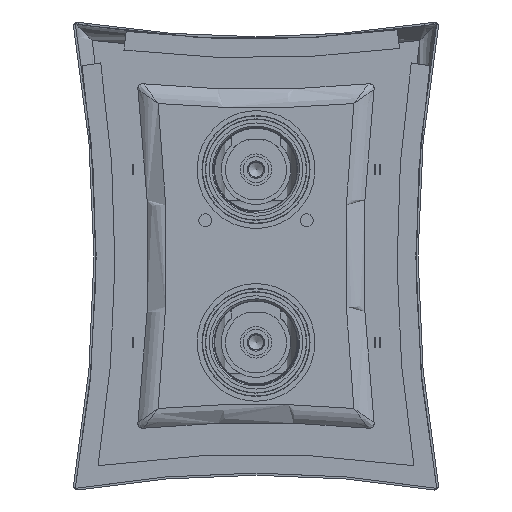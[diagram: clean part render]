
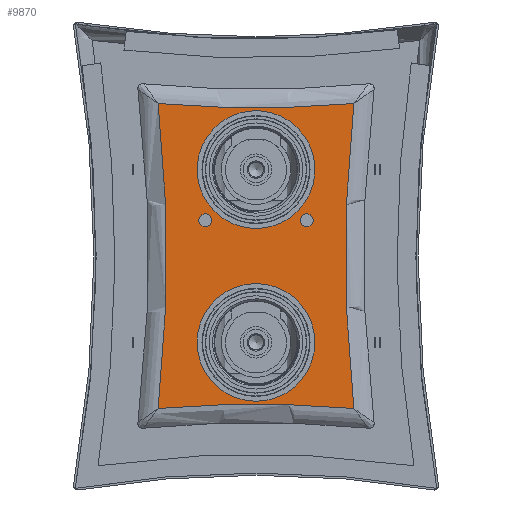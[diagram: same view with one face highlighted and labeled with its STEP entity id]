
A CAD part, left-side view. The second image highlights one B-rep face of the part: STEP entity #9870.
In plain terms, the highlighted planar face has unit normal (-1, 0, 0) as drawn and (0, 0, -1) by its records, which use the part's own axes.
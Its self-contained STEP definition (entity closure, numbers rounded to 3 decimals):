
#2351=PLANE('',#10773);
#2442=FACE_BOUND('',#3741,.T.);
#2443=FACE_BOUND('',#3742,.T.);
#2444=FACE_BOUND('',#3743,.T.);
#2445=FACE_BOUND('',#3744,.T.);
#3049=FACE_OUTER_BOUND('',#3740,.T.);
#3740=EDGE_LOOP('',(#9159,#9160,#9161,#9162));
#3741=EDGE_LOOP('',(#9163));
#3742=EDGE_LOOP('',(#9164));
#3743=EDGE_LOOP('',(#9165));
#3744=EDGE_LOOP('',(#9166));
#4128=CIRCLE('',#10692,532.878);
#4131=CIRCLE('',#10696,633.625);
#4133=CIRCLE('',#10699,532.878);
#4135=CIRCLE('',#10702,633.625);
#4156=CIRCLE('',#10743,3.);
#4158=CIRCLE('',#10746,3.);
#4160=CIRCLE('',#10749,25.25);
#4162=CIRCLE('',#10752,25.25);
#4992=VERTEX_POINT('',#19945);
#4993=VERTEX_POINT('',#19963);
#4996=VERTEX_POINT('',#19978);
#4999=VERTEX_POINT('',#20066);
#5036=VERTEX_POINT('',#20522);
#5038=VERTEX_POINT('',#20527);
#5040=VERTEX_POINT('',#20532);
#5042=VERTEX_POINT('',#20537);
#6339=EDGE_CURVE('',#4992,#4993,#4128,.T.);
#6344=EDGE_CURVE('',#4996,#4992,#4131,.T.);
#6349=EDGE_CURVE('',#4999,#4996,#4133,.T.);
#6354=EDGE_CURVE('',#4993,#4999,#4135,.T.);
#6414=EDGE_CURVE('',#5036,#5036,#4156,.T.);
#6416=EDGE_CURVE('',#5038,#5038,#4158,.T.);
#6418=EDGE_CURVE('',#5040,#5040,#4160,.T.);
#6420=EDGE_CURVE('',#5042,#5042,#4162,.T.);
#9159=ORIENTED_EDGE('',*,*,#6344,.F.);
#9160=ORIENTED_EDGE('',*,*,#6349,.F.);
#9161=ORIENTED_EDGE('',*,*,#6354,.F.);
#9162=ORIENTED_EDGE('',*,*,#6339,.F.);
#9163=ORIENTED_EDGE('',*,*,#6414,.T.);
#9164=ORIENTED_EDGE('',*,*,#6416,.T.);
#9165=ORIENTED_EDGE('',*,*,#6418,.T.);
#9166=ORIENTED_EDGE('',*,*,#6420,.T.);
#9870=ADVANCED_FACE('',(#3049,#2442,#2443,#2444,#2445),#2351,.F.);
#10692=AXIS2_PLACEMENT_3D('',#19964,#12982,#12983);
#10696=AXIS2_PLACEMENT_3D('',#19989,#12990,#12991);
#10699=AXIS2_PLACEMENT_3D('',#20078,#12996,#12997);
#10702=AXIS2_PLACEMENT_3D('',#20169,#13002,#13003);
#10743=AXIS2_PLACEMENT_3D('',#20523,#13109,#13110);
#10746=AXIS2_PLACEMENT_3D('',#20528,#13115,#13116);
#10749=AXIS2_PLACEMENT_3D('',#20533,#13121,#13122);
#10752=AXIS2_PLACEMENT_3D('',#20538,#13127,#13128);
#10773=AXIS2_PLACEMENT_3D('',#20725,#13171,#13172);
#12982=DIRECTION('center_axis',(0.,0.,
-1.));
#12983=DIRECTION('ref_axis',(0.005,-1.,0.));
#12990=DIRECTION('center_axis',(0.,0.,
-1.));
#12991=DIRECTION('ref_axis',(-1.,0.,0.));
#12996=DIRECTION('center_axis',(0.,0.,
-1.));
#12997=DIRECTION('ref_axis',(0.006,1.,0.));
#13002=DIRECTION('center_axis',(0.,0.,
-1.));
#13003=DIRECTION('ref_axis',(1.,0.,0.));
#13109=DIRECTION('center_axis',(0.,0.,
1.));
#13110=DIRECTION('ref_axis',(1.,0.,0.));
#13115=DIRECTION('center_axis',(0.,0.,
1.));
#13116=DIRECTION('ref_axis',(1.,0.,0.));
#13121=DIRECTION('center_axis',(0.,0.,
1.));
#13122=DIRECTION('ref_axis',(-1.,0.,0.));
#13127=DIRECTION('center_axis',(0.,0.,
1.));
#13128=DIRECTION('ref_axis',(-1.,0.,0.));
#13171=DIRECTION('center_axis',(0.,0.,
1.));
#13172=DIRECTION('ref_axis',(1.,0.,0.));
#19945=CARTESIAN_POINT('',(-45.315,-70.553,8.));
#19963=CARTESIAN_POINT('',(45.315,-70.553,8.));
#19964=CARTESIAN_POINT('Origin',(0.,-601.5,8.));
#19978=CARTESIAN_POINT('',(-45.315,70.553,8.));
#19989=CARTESIAN_POINT('Origin',(-675.,0.,8.));
#20066=CARTESIAN_POINT('',(45.315,70.553,8.));
#20078=CARTESIAN_POINT('Origin',(0.,601.5,8.));
#20169=CARTESIAN_POINT('Origin',(675.,0.,8.));
#20522=CARTESIAN_POINT('',(-26.5,16.5,8.));
#20523=CARTESIAN_POINT('Origin',(-23.5,16.5,8.));
#20527=CARTESIAN_POINT('',(20.5,16.5,8.));
#20528=CARTESIAN_POINT('Origin',(23.5,16.5,8.));
#20532=CARTESIAN_POINT('',(25.25,-40.,8.));
#20533=CARTESIAN_POINT('Origin',(0.,-40.,8.));
#20537=CARTESIAN_POINT('',(25.25,40.,8.));
#20538=CARTESIAN_POINT('Origin',(0.,40.,8.));
#20725=CARTESIAN_POINT('Origin',(0.,0.,
8.));
